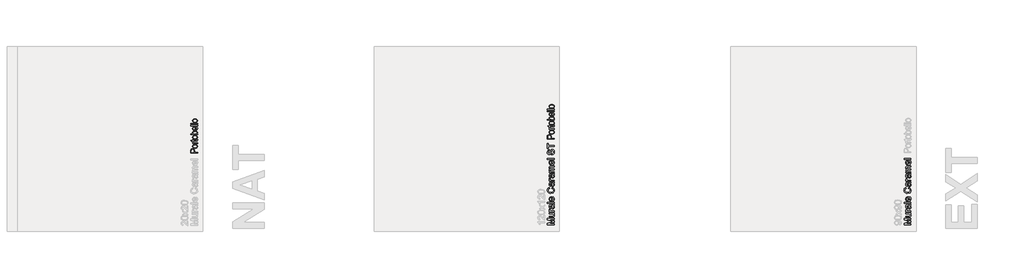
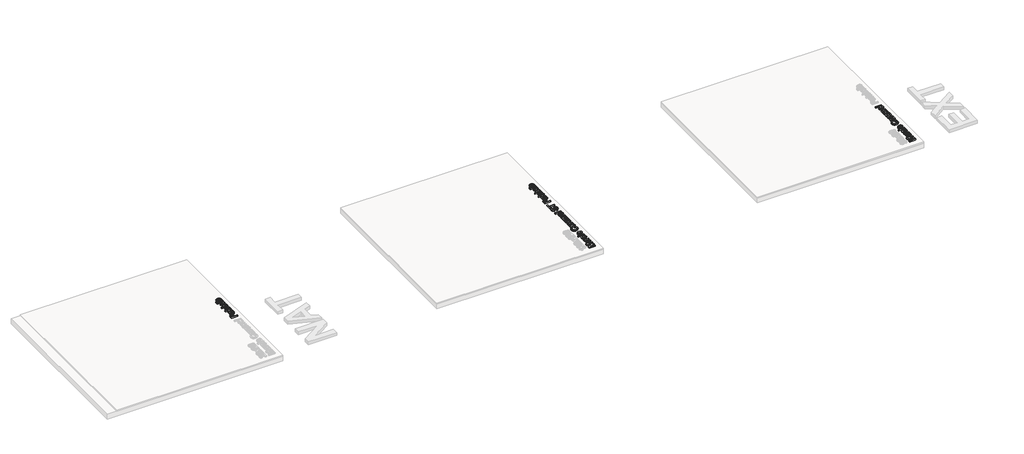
# One storey, part 19 of 21: 4 proxies.
"""IFC4 building model written with IfcOpenShell, lengths in millimetres."""

from ifc_helpers import new_model, si_unit, frame, origin, origin_with_axes, place, context, project, spatial, polyline, outline, extrude, element, save

model = new_model("IFC4")

# Units and contexts
model_context = context("Model", 3, world=origin())
ifc_project = project(units=[si_unit("LENGTHUNIT", "METRE", prefix="MILLI")], contexts=[model_context])

# Site, building, storey
site = spatial("IfcSite", under=ifc_project)
building = spatial("IfcBuilding", under=site)
storey = spatial("IfcBuildingStorey", under=building, Name="PORTOBELLO - SHOWROOM", Elevation=0.0)

# Proxies
placement = place(None, origin())
element("IfcBuildingElementProxy", 1, Name="10mm Arial", ObjectType="10mm Arial", at=placement, inside=storey, context=model_context, shape_type="SweptSolid", body=[
    extrude(outline(polyline([(28359.4625095, 34969.8696803), (28259.0061994, 34969.8696803), (28259.0061994, 34991.4030397), (28329.8112207, 35012.0044314), (28344.6000769, 35016.1737607), (28328.5849474, 35020.6619211), (28259.0061994, 35040.8709053), (28259.0061994, 35062.4778412), (28359.4625095, 35062.4778412), (28359.4625095, 35049.9208024), (28271.5632382, 35049.9208024), (28359.4625095, 35024.6840975), (28359.4625095, 35007.6879494), (28271.5632382, 34982.426719), (28359.4625095, 34982.426719), (28359.4625095, 34969.8696803)])), frame((0.0, 0.0, 18.0), z_axis=(0.0, 0.0, 1.0), x_axis=(1.0, 0.0, 0.0)), (0.0, 0.0, 1.0), 20.0),
    extrude(outline(polyline([(28359.4625095, 35129.9719246), (28346.7828434, 35129.9719246), (28357.4698154, 35120.1372126), (28361.0321394, 35107.3103937), (28358.5305418, 35095.5013816), (28352.2520224, 35087.3589268), (28343.0059216, 35083.6187932), (28331.3317996, 35082.8830292), (28285.6899068, 35082.8830292), (28285.6899068, 35095.4400679), (28325.4211622, 35095.4400679), (28338.2234557, 35096.2003574), (28345.7405111, 35101.1667643), (28348.4751006, 35110.5232297), (28345.6791974, 35121.0078666), (28338.0640401, 35127.9363109), (28324.0722616, 35129.9719246), (28285.6899068, 35129.9719246), (28285.6899068, 35142.5289633), (28359.4625095, 35142.5289633), (28359.4625095, 35129.9719246)])), frame((0.0, 0.0, 18.0), z_axis=(0.0, 0.0, 1.0), x_axis=(1.0, 0.0, 0.0)), (0.0, 0.0, 1.0), 20.0),
    extrude(outline(polyline([(28359.4625095, 35159.7948916), (28285.6899068, 35159.7948916), (28285.6899068, 35170.7823006), (28296.6037393, 35170.7823006), (28286.5482981, 35178.5813989), (28284.1202769, 35186.4295481), (28287.9953006, 35199.0356378), (28299.2524897, 35194.841783), (28296.6773157, 35186.0126152), (28299.1543878, 35178.9124927), (28306.0215184, 35174.3875441), (28320.6877472, 35172.3519304), (28359.4625095, 35172.3519304), (28359.4625095, 35159.7948916)])), frame((0.0, 0.0, 18.0), z_axis=(0.0, 0.0, 1.0), x_axis=(1.0, 0.0, 0.0)), (0.0, 0.0, 1.0), 20.0),
    extrude(outline(polyline([(28350.0447305, 35253.9726824), (28358.5550673, 35241.7957884), (28361.0321394, 35228.3435701), (28359.5422173, 35217.8497362), (28355.0724511, 35210.1088858), (28348.2850282, 35205.335617), (28339.8421365, 35203.7445273), (28329.9093226, 35206.148023), (28322.6988355, 35212.4633306), (28318.5785571, 35221.2557103), (28316.6900962, 35232.1204919), (28312.3736142, 35253.899106), (28309.577711, 35253.9726824), (28300.3070847, 35250.5145916), (28296.6773157, 35236.6331777), (28299.0930741, 35223.9289861), (28307.6647246, 35217.8711959), (28306.0950948, 35205.3141572), (28293.8323616, 35210.746548), (28286.6464, 35221.684906), (28284.1202769, 35238.2518585), (28286.3520944, 35253.4699103), (28291.9561634, 35262.0660863), (28300.478763, 35265.9165845), (28311.4661719, 35266.5297212), (28327.088894, 35266.5297212), (28348.9042963, 35267.1673833), (28359.4625095, 35269.6689809), (28359.4625095, 35257.1119421), (28350.0447305, 35253.9726824)]), holes=[polyline([(28324.9306529, 35253.9726824), (28328.7811511, 35233.7146472), (28330.8167648, 35222.9111793), (28334.1277028, 35218.0183487), (28338.9592197, 35216.3015661), (28345.7527738, 35220.0416997), (28348.4751006, 35231.0168459), (28345.470731, 35243.7210375), (28338.1989302, 35251.9125432), (28328.4868455, 35253.899106), (28324.9306529, 35253.9726824)])]), frame((0.0, 0.0, 18.0), z_axis=(0.0, 0.0, 1.0), x_axis=(1.0, 0.0, 0.0)), (0.0, 0.0, 1.0), 20.0),
    extrude(outline(polyline([(28359.4625095, 35283.7956495), (28259.0061994, 35283.7956495), (28259.0061994, 35296.3526882), (28359.4625095, 35296.3526882), (28359.4625095, 35283.7956495)])), frame((0.0, 0.0, 18.0), z_axis=(0.0, 0.0, 1.0), x_axis=(1.0, 0.0, 0.0)), (0.0, 0.0, 1.0), 20.0),
    extrude(outline(polyline([(28337.4876917, 35366.8388785), (28339.0573215, 35379.1506626), (28348.3340792, 35374.7146189), (28355.2686548, 35367.6359562), (28359.5912682, 35358.07409), (28361.0321394, 35346.1884359), (28358.5458702, 35331.454762), (28351.0870628, 35320.1178651), (28339.140095, 35312.8889839), (28323.1893448, 35310.4793569), (28306.7021001, 35312.9135094), (28294.3719219, 35320.215967), (28286.6831882, 35331.3995797), (28284.1202769, 35345.4771973), (28286.6770568, 35359.1164223), (28294.3473964, 35370.0149264), (28306.6530491, 35377.1610342), (28323.1157684, 35379.5430701), (28326.5002828, 35379.4694937), (28326.5002828, 35323.0363956), (28335.8996677, 35325.2099651), (28342.8097179, 35330.2591455), (28347.0587549, 35337.5462747), (28348.4751006, 35346.4336905), (28345.8508757, 35358.7454746), (28337.4876917, 35366.8388785)]), holes=[polyline([(28313.943244, 35323.0363956), (28313.943244, 35366.9860313), (28302.5634276, 35361.9583107), (28298.1488437, 35354.637459), (28296.6773157, 35345.4281464), (28301.3739425, 35329.9648399), (28306.8645813, 35325.0996005), (28313.943244, 35323.0363956)])]), frame((0.0, 0.0, 18.0), z_axis=(0.0, 0.0, 1.0), x_axis=(1.0, 0.0, 0.0)), (0.0, 0.0, 1.0), 20.0),
    extrude(outline(polyline([(28323.7534305, 35503.5438279), (28326.9907921, 35516.1008667), (28341.6232985, 35510.3067253), (28352.3133361, 35501.2139086), (28358.8524386, 35489.2700065), (28361.0321394, 35474.9226087), (28359.3828018, 35460.3575474), (28354.4347889, 35448.7907243), (28346.3597791, 35439.9247682), (28335.3294506, 35433.4623078), (28308.474065, 35428.2015953), (28293.8262302, 35429.6884517), (28281.177221, 35434.1490209), (28270.9286417, 35441.350311), (28263.482097, 35451.0593299), (28258.9479514, 35462.5740364), (28257.4365695, 35475.1923888), (28259.3924755, 35488.9603725), (28265.2601933, 35500.3432546), (28274.6779724, 35508.9854158), (28287.2840621, 35514.5312369), (28290.276169, 35501.9741981), (28274.8373879, 35491.6735022), (28269.9936083, 35474.7018795), (28275.3646854, 35455.056981), (28289.7856596, 35443.9592074), (28308.4495395, 35440.7586341), (28330.0810009, 35444.5478186), (28343.9011011, 35456.3445679), (28348.4751006, 35473.6718099), (28346.9177335, 35484.1533811), (28342.2456322, 35492.8875128), (28334.5078475, 35499.4817976), (28323.7534305, 35503.5438279)])), frame((0.0, 0.0, 18.0), z_axis=(0.0, 0.0, 1.0), x_axis=(1.0, 0.0, 0.0)), (0.0, 0.0, 1.0), 20.0),
    extrude(outline(polyline([(28350.0447305, 35578.8860605), (28358.5550673, 35566.7091665), (28361.0321394, 35553.2569482), (28359.5422173, 35542.7631143), (28355.0724511, 35535.022264), (28348.2850282, 35530.2489951), (28339.8421365, 35528.6579055), (28329.9093226, 35531.0614012), (28322.6988355, 35537.3767088), (28318.5785571, 35546.1690884), (28316.6900962, 35557.03387), (28312.3736142, 35578.8124841), (28309.577711, 35578.8860605), (28300.3070847, 35575.4279698), (28296.6773157, 35561.5465558), (28299.0930741, 35548.8423643), (28307.6647246, 35542.7845741), (28306.0950948, 35530.2275353), (28293.8323616, 35535.6599261), (28286.6464, 35546.5982841), (28284.1202769, 35563.1652366), (28286.3520944, 35578.3832885), (28291.9561634, 35586.9794644), (28300.478763, 35590.8299627), (28311.4661719, 35591.4430993), (28327.088894, 35591.4430993), (28348.9042963, 35592.0807614), (28359.4625095, 35594.582359), (28359.4625095, 35582.0253202), (28350.0447305, 35578.8860605)]), holes=[polyline([(28324.9306529, 35578.8860605), (28328.7811511, 35558.6280253), (28330.8167648, 35547.8245574), (28334.1277028, 35542.9317269), (28338.9592197, 35541.2149442), (28345.7527738, 35544.9550779), (28348.4751006, 35555.930224), (28345.470731, 35568.6344156), (28338.1989302, 35576.8259214), (28328.4868455, 35578.8124841), (28324.9306529, 35578.8860605)])]), frame((0.0, 0.0, 18.0), z_axis=(0.0, 0.0, 1.0), x_axis=(1.0, 0.0, 0.0)), (0.0, 0.0, 1.0), 20.0),
    extrude(outline(polyline([(28359.4625095, 35608.7090276), (28285.6899068, 35608.7090276), (28285.6899068, 35619.6964365), (28296.6037393, 35619.6964365), (28286.5482981, 35627.4955348), (28284.1202769, 35635.3436841), (28287.9953006, 35647.9497738), (28299.2524897, 35643.755919), (28296.6773157, 35634.9267511), (28299.1543878, 35627.8266286), (28306.0215184, 35623.3016801), (28320.6877472, 35621.2660664), (28359.4625095, 35621.2660664), (28359.4625095, 35608.7090276)])), frame((0.0, 0.0, 18.0), z_axis=(0.0, 0.0, 1.0), x_axis=(1.0, 0.0, 0.0)), (0.0, 0.0, 1.0), 20.0),
    extrude(outline(polyline([(28350.0447305, 35702.8868184), (28358.5550673, 35690.7099243), (28361.0321394, 35677.2577061), (28359.5422173, 35666.7638721), (28355.0724511, 35659.0230218), (28348.2850282, 35654.2497529), (28339.8421365, 35652.6586633), (28329.9093226, 35655.062159), (28322.6988355, 35661.3774666), (28318.5785571, 35670.1698463), (28316.6900962, 35681.0346279), (28312.3736142, 35702.813242), (28309.577711, 35702.8868184), (28300.3070847, 35699.4287276), (28296.6773157, 35685.5473137), (28299.0930741, 35672.8431221), (28307.6647246, 35666.7853319), (28306.0950948, 35654.2282932), (28293.8323616, 35659.6606839), (28286.6464, 35670.5990419), (28284.1202769, 35687.1659945), (28286.3520944, 35702.3840463), (28291.9561634, 35710.9802223), (28300.478763, 35714.8307205), (28311.4661719, 35715.4438571), (28327.088894, 35715.4438571), (28348.9042963, 35716.0815193), (28359.4625095, 35718.5831168), (28359.4625095, 35706.0260781), (28350.0447305, 35702.8868184)]), holes=[polyline([(28324.9306529, 35702.8868184), (28328.7811511, 35682.6287832), (28330.8167648, 35671.8253153), (28334.1277028, 35666.9324847), (28338.9592197, 35665.2157021), (28345.7527738, 35668.9558357), (28348.4751006, 35679.9309819), (28345.470731, 35692.6351734), (28338.1989302, 35700.8266792), (28328.4868455, 35702.813242), (28324.9306529, 35702.8868184)])]), frame((0.0, 0.0, 18.0), z_axis=(0.0, 0.0, 1.0), x_axis=(1.0, 0.0, 0.0)), (0.0, 0.0, 1.0), 20.0),
    extrude(outline(polyline([(28359.4625095, 35732.7097855), (28285.6899068, 35732.7097855), (28285.6899068, 35745.2668242), (28297.8300126, 35745.2668242), (28287.884936, 35753.8997884), (28284.1202769, 35766.187047), (28287.9585124, 35778.7686113), (28298.7129294, 35785.6847928), (28287.76844, 35795.4827166), (28284.1202769, 35807.8558143), (28285.6377902, 35817.2950532), (28290.1903298, 35824.2756141), (28297.9005233, 35828.5890304), (28308.8909979, 35830.0268359), (28359.4625095, 35830.0268359), (28359.4625095, 35817.4697971), (28314.2866005, 35817.4697971), (28303.8019637, 35816.3048375), (28298.639353, 35812.0864573), (28296.6773157, 35804.9127584), (28301.7050363, 35792.5641861), (28308.2472044, 35788.8761691), (28317.8182677, 35787.6468301), (28359.4625095, 35787.6468301), (28359.4625095, 35775.0897913), (28312.8886489, 35775.0897913), (28300.7240176, 35772.1835235), (28296.6773157, 35762.6553799), (28299.375117, 35753.3602281), (28307.2723172, 35747.1798106), (28322.2573771, 35745.2668242), (28359.4625095, 35745.2668242), (28359.4625095, 35732.7097855)])), frame((0.0, 0.0, 18.0), z_axis=(0.0, 0.0, 1.0), x_axis=(1.0, 0.0, 0.0)), (0.0, 0.0, 1.0), 20.0),
    extrude(outline(polyline([(28337.4876917, 35900.5130262), (28339.0573215, 35912.8248103), (28348.3340792, 35908.3887666), (28355.2686548, 35901.3101038), (28359.5912682, 35891.7482377), (28361.0321394, 35879.8625835), (28358.5458702, 35865.1289096), (28351.0870628, 35853.7920128), (28339.140095, 35846.5631316), (28323.1893448, 35844.1535045), (28306.7021001, 35846.5876571), (28294.3719219, 35853.8901147), (28286.6831882, 35865.0737273), (28284.1202769, 35879.151345), (28286.6770568, 35892.79057), (28294.3473964, 35903.6890741), (28306.6530491, 35910.8351818), (28323.1157684, 35913.2172178), (28326.5002828, 35913.1436414), (28326.5002828, 35856.7105433), (28335.8996677, 35858.8841128), (28342.8097179, 35863.9332931), (28347.0587549, 35871.2204223), (28348.4751006, 35880.1078382), (28345.8508757, 35892.4196223), (28337.4876917, 35900.5130262)]), holes=[polyline([(28313.943244, 35856.7105433), (28313.943244, 35900.660179), (28302.5634276, 35895.6324584), (28298.1488437, 35888.3116067), (28296.6773157, 35879.1022941), (28301.3739425, 35863.6389875), (28306.8645813, 35858.7737482), (28313.943244, 35856.7105433)])]), frame((0.0, 0.0, 18.0), z_axis=(0.0, 0.0, 1.0), x_axis=(1.0, 0.0, 0.0)), (0.0, 0.0, 1.0), 20.0),
    extrude(outline(polyline([(28359.4625095, 35925.7742565), (28259.0061994, 35925.7742565), (28259.0061994, 35938.3312953), (28359.4625095, 35938.3312953), (28359.4625095, 35925.7742565)])), frame((0.0, 0.0, 18.0), z_axis=(0.0, 0.0, 1.0), x_axis=(1.0, 0.0, 0.0)), (0.0, 0.0, 1.0), 20.0),
])
element("IfcBuildingElementProxy", 2, Name="10mm Arial", ObjectType="10mm Arial", at=placement, inside=storey, context=model_context, shape_type="SweptSolid", body=[
    extrude(outline(polyline([(23159.4374935, 34969.8696803), (23058.9811833, 34969.8696803), (23058.9811833, 34991.4030397), (23129.7862046, 35012.0044314), (23144.5750608, 35016.1737607), (23128.5599313, 35020.6619211), (23058.9811833, 35040.8709053), (23058.9811833, 35062.4778412), (23159.4374935, 35062.4778412), (23159.4374935, 35049.9208024), (23071.5382221, 35049.9208024), (23159.4374935, 35024.6840975), (23159.4374935, 35007.6879494), (23071.5382221, 34982.426719), (23159.4374935, 34982.426719), (23159.4374935, 34969.8696803)])), frame((0.0, 0.0, 17.0), z_axis=(0.0, 0.0, 1.0), x_axis=(1.0, 0.0, 0.0)), (0.0, 0.0, 1.0), 20.0),
    extrude(outline(polyline([(23159.4374935, 35129.9719246), (23146.7578274, 35129.9719246), (23157.4447993, 35120.1372126), (23161.0071233, 35107.3103937), (23158.5055257, 35095.5013816), (23152.2270063, 35087.3589268), (23142.9809055, 35083.6187932), (23131.3067836, 35082.8830292), (23085.6648907, 35082.8830292), (23085.6648907, 35095.4400679), (23125.3961462, 35095.4400679), (23138.1984396, 35096.2003574), (23145.715495, 35101.1667643), (23148.4500845, 35110.5232297), (23145.6541814, 35121.0078666), (23138.0390241, 35127.9363109), (23124.0472455, 35129.9719246), (23085.6648907, 35129.9719246), (23085.6648907, 35142.5289633), (23159.4374935, 35142.5289633), (23159.4374935, 35129.9719246)])), frame((0.0, 0.0, 17.0), z_axis=(0.0, 0.0, 1.0), x_axis=(1.0, 0.0, 0.0)), (0.0, 0.0, 1.0), 20.0),
    extrude(outline(polyline([(23159.4374935, 35159.7948916), (23085.6648907, 35159.7948916), (23085.6648907, 35170.7823006), (23096.5787232, 35170.7823006), (23086.523282, 35178.5813989), (23084.0952608, 35186.4295481), (23087.9702845, 35199.0356378), (23099.2274736, 35194.841783), (23096.6522996, 35186.0126152), (23099.1293717, 35178.9124927), (23105.9965023, 35174.3875441), (23120.6627312, 35172.3519304), (23159.4374935, 35172.3519304), (23159.4374935, 35159.7948916)])), frame((0.0, 0.0, 17.0), z_axis=(0.0, 0.0, 1.0), x_axis=(1.0, 0.0, 0.0)), (0.0, 0.0, 1.0), 20.0),
    extrude(outline(polyline([(23150.0197144, 35253.9726824), (23158.5300512, 35241.7957884), (23161.0071233, 35228.3435701), (23159.5172012, 35217.8497362), (23155.047435, 35210.1088858), (23148.2600122, 35205.335617), (23139.8171204, 35203.7445273), (23129.8843065, 35206.148023), (23122.6738194, 35212.4633306), (23118.5535411, 35221.2557103), (23116.6650801, 35232.1204919), (23112.3485981, 35253.899106), (23109.5526949, 35253.9726824), (23100.2820686, 35250.5145916), (23096.6522996, 35236.6331777), (23099.068058, 35223.9289861), (23107.6397085, 35217.8711959), (23106.0700787, 35205.3141572), (23093.8073455, 35210.746548), (23086.6213839, 35221.684906), (23084.0952608, 35238.2518585), (23086.3270783, 35253.4699103), (23091.9311473, 35262.0660863), (23100.4537469, 35265.9165845), (23111.4411558, 35266.5297212), (23127.0638779, 35266.5297212), (23148.8792802, 35267.1673833), (23159.4374935, 35269.6689809), (23159.4374935, 35257.1119421), (23150.0197144, 35253.9726824)]), holes=[polyline([(23124.9056368, 35253.9726824), (23128.7561351, 35233.7146472), (23130.7917488, 35222.9111793), (23134.1026867, 35218.0183487), (23138.9342036, 35216.3015661), (23145.7277578, 35220.0416997), (23148.4500845, 35231.0168459), (23145.4457149, 35243.7210375), (23138.1739141, 35251.9125432), (23128.4618295, 35253.899106), (23124.9056368, 35253.9726824)])]), frame((0.0, 0.0, 17.0), z_axis=(0.0, 0.0, 1.0), x_axis=(1.0, 0.0, 0.0)), (0.0, 0.0, 1.0), 20.0),
    extrude(outline(polyline([(23159.4374935, 35283.7956495), (23058.9811833, 35283.7956495), (23058.9811833, 35296.3526882), (23159.4374935, 35296.3526882), (23159.4374935, 35283.7956495)])), frame((0.0, 0.0, 17.0), z_axis=(0.0, 0.0, 1.0), x_axis=(1.0, 0.0, 0.0)), (0.0, 0.0, 1.0), 20.0),
    extrude(outline(polyline([(23137.4626756, 35366.8388785), (23139.0323055, 35379.1506626), (23148.3090631, 35374.7146189), (23155.2436387, 35367.6359562), (23159.5662521, 35358.07409), (23161.0071233, 35346.1884359), (23158.5208541, 35331.454762), (23151.0620467, 35320.1178651), (23139.1150789, 35312.8889839), (23123.1643287, 35310.4793569), (23106.677084, 35312.9135094), (23094.3469058, 35320.215967), (23086.6581721, 35331.3995797), (23084.0952608, 35345.4771973), (23086.6520407, 35359.1164223), (23094.3223803, 35370.0149264), (23106.628033, 35377.1610342), (23123.0907523, 35379.5430701), (23126.4752667, 35379.4694937), (23126.4752667, 35323.0363956), (23135.8746517, 35325.2099651), (23142.7847018, 35330.2591455), (23147.0337388, 35337.5462747), (23148.4500845, 35346.4336905), (23145.8258596, 35358.7454746), (23137.4626756, 35366.8388785)]), holes=[polyline([(23113.9182279, 35323.0363956), (23113.9182279, 35366.9860313), (23102.5384115, 35361.9583107), (23098.1238276, 35354.637459), (23096.6522996, 35345.4281464), (23101.3489264, 35329.9648399), (23106.8395652, 35325.0996005), (23113.9182279, 35323.0363956)])]), frame((0.0, 0.0, 17.0), z_axis=(0.0, 0.0, 1.0), x_axis=(1.0, 0.0, 0.0)), (0.0, 0.0, 1.0), 20.0),
    extrude(outline(polyline([(23123.7284145, 35503.5438279), (23126.965776, 35516.1008667), (23141.5982824, 35510.3067253), (23152.28832, 35501.2139086), (23158.8274225, 35489.2700065), (23161.0071233, 35474.9226087), (23159.3577857, 35460.3575474), (23154.4097729, 35448.7907243), (23146.3347631, 35439.9247682), (23135.3044346, 35433.4623078), (23108.4490489, 35428.2015953), (23093.8012141, 35429.6884517), (23081.1522049, 35434.1490209), (23070.9036256, 35441.350311), (23063.4570809, 35451.0593299), (23058.9229353, 35462.5740364), (23057.4115535, 35475.1923888), (23059.3674594, 35488.9603725), (23065.2351772, 35500.3432546), (23074.6529563, 35508.9854158), (23087.259046, 35514.5312369), (23090.2511529, 35501.9741981), (23074.8123718, 35491.6735022), (23069.9685922, 35474.7018795), (23075.3396694, 35455.056981), (23089.7606436, 35443.9592074), (23108.4245235, 35440.7586341), (23130.0559848, 35444.5478186), (23143.8760851, 35456.3445679), (23148.4500845, 35473.6718099), (23146.8927174, 35484.1533811), (23142.2206161, 35492.8875128), (23134.4828314, 35499.4817976), (23123.7284145, 35503.5438279)])), frame((0.0, 0.0, 17.0), z_axis=(0.0, 0.0, 1.0), x_axis=(1.0, 0.0, 0.0)), (0.0, 0.0, 1.0), 20.0),
    extrude(outline(polyline([(23150.0197144, 35578.8860605), (23158.5300512, 35566.7091665), (23161.0071233, 35553.2569482), (23159.5172012, 35542.7631143), (23155.047435, 35535.022264), (23148.2600122, 35530.2489951), (23139.8171204, 35528.6579055), (23129.8843065, 35531.0614012), (23122.6738194, 35537.3767088), (23118.5535411, 35546.1690884), (23116.6650801, 35557.03387), (23112.3485981, 35578.8124841), (23109.5526949, 35578.8860605), (23100.2820686, 35575.4279698), (23096.6522996, 35561.5465558), (23099.068058, 35548.8423643), (23107.6397085, 35542.7845741), (23106.0700787, 35530.2275353), (23093.8073455, 35535.6599261), (23086.6213839, 35546.5982841), (23084.0952608, 35563.1652366), (23086.3270783, 35578.3832885), (23091.9311473, 35586.9794644), (23100.4537469, 35590.8299627), (23111.4411558, 35591.4430993), (23127.0638779, 35591.4430993), (23148.8792802, 35592.0807614), (23159.4374935, 35594.582359), (23159.4374935, 35582.0253202), (23150.0197144, 35578.8860605)]), holes=[polyline([(23124.9056368, 35578.8860605), (23128.7561351, 35558.6280253), (23130.7917488, 35547.8245574), (23134.1026867, 35542.9317269), (23138.9342036, 35541.2149442), (23145.7277578, 35544.9550779), (23148.4500845, 35555.930224), (23145.4457149, 35568.6344156), (23138.1739141, 35576.8259214), (23128.4618295, 35578.8124841), (23124.9056368, 35578.8860605)])]), frame((0.0, 0.0, 17.0), z_axis=(0.0, 0.0, 1.0), x_axis=(1.0, 0.0, 0.0)), (0.0, 0.0, 1.0), 20.0),
    extrude(outline(polyline([(23159.4374935, 35608.7090276), (23085.6648907, 35608.7090276), (23085.6648907, 35619.6964365), (23096.5787232, 35619.6964365), (23086.523282, 35627.4955348), (23084.0952608, 35635.3436841), (23087.9702845, 35647.9497738), (23099.2274736, 35643.755919), (23096.6522996, 35634.9267511), (23099.1293717, 35627.8266286), (23105.9965023, 35623.3016801), (23120.6627312, 35621.2660664), (23159.4374935, 35621.2660664), (23159.4374935, 35608.7090276)])), frame((0.0, 0.0, 17.0), z_axis=(0.0, 0.0, 1.0), x_axis=(1.0, 0.0, 0.0)), (0.0, 0.0, 1.0), 20.0),
    extrude(outline(polyline([(23150.0197144, 35702.8868184), (23158.5300512, 35690.7099243), (23161.0071233, 35677.2577061), (23159.5172012, 35666.7638721), (23155.047435, 35659.0230218), (23148.2600122, 35654.2497529), (23139.8171204, 35652.6586633), (23129.8843065, 35655.062159), (23122.6738194, 35661.3774666), (23118.5535411, 35670.1698463), (23116.6650801, 35681.0346279), (23112.3485981, 35702.813242), (23109.5526949, 35702.8868184), (23100.2820686, 35699.4287276), (23096.6522996, 35685.5473137), (23099.068058, 35672.8431221), (23107.6397085, 35666.7853319), (23106.0700787, 35654.2282932), (23093.8073455, 35659.6606839), (23086.6213839, 35670.5990419), (23084.0952608, 35687.1659945), (23086.3270783, 35702.3840463), (23091.9311473, 35710.9802223), (23100.4537469, 35714.8307205), (23111.4411558, 35715.4438571), (23127.0638779, 35715.4438571), (23148.8792802, 35716.0815193), (23159.4374935, 35718.5831168), (23159.4374935, 35706.0260781), (23150.0197144, 35702.8868184)]), holes=[polyline([(23124.9056368, 35702.8868184), (23128.7561351, 35682.6287832), (23130.7917488, 35671.8253153), (23134.1026867, 35666.9324847), (23138.9342036, 35665.2157021), (23145.7277578, 35668.9558357), (23148.4500845, 35679.9309819), (23145.4457149, 35692.6351734), (23138.1739141, 35700.8266792), (23128.4618295, 35702.813242), (23124.9056368, 35702.8868184)])]), frame((0.0, 0.0, 17.0), z_axis=(0.0, 0.0, 1.0), x_axis=(1.0, 0.0, 0.0)), (0.0, 0.0, 1.0), 20.0),
    extrude(outline(polyline([(23159.4374935, 35732.7097855), (23085.6648907, 35732.7097855), (23085.6648907, 35745.2668242), (23097.8049965, 35745.2668242), (23087.8599199, 35753.8997884), (23084.0952608, 35766.187047), (23087.9334963, 35778.7686113), (23098.6879133, 35785.6847928), (23087.743424, 35795.4827166), (23084.0952608, 35807.8558143), (23085.6127741, 35817.2950532), (23090.1653138, 35824.2756141), (23097.8755072, 35828.5890304), (23108.8659818, 35830.0268359), (23159.4374935, 35830.0268359), (23159.4374935, 35817.4697971), (23114.2615844, 35817.4697971), (23103.7769476, 35816.3048375), (23098.6143369, 35812.0864573), (23096.6522996, 35804.9127584), (23101.6800202, 35792.5641861), (23108.2221884, 35788.8761691), (23117.7932516, 35787.6468301), (23159.4374935, 35787.6468301), (23159.4374935, 35775.0897913), (23112.8636329, 35775.0897913), (23100.6990016, 35772.1835235), (23096.6522996, 35762.6553799), (23099.3501009, 35753.3602281), (23107.2473011, 35747.1798106), (23122.232361, 35745.2668242), (23159.4374935, 35745.2668242), (23159.4374935, 35732.7097855)])), frame((0.0, 0.0, 17.0), z_axis=(0.0, 0.0, 1.0), x_axis=(1.0, 0.0, 0.0)), (0.0, 0.0, 1.0), 20.0),
    extrude(outline(polyline([(23137.4626756, 35900.5130262), (23139.0323055, 35912.8248103), (23148.3090631, 35908.3887666), (23155.2436387, 35901.3101038), (23159.5662521, 35891.7482377), (23161.0071233, 35879.8625835), (23158.5208541, 35865.1289096), (23151.0620467, 35853.7920128), (23139.1150789, 35846.5631316), (23123.1643287, 35844.1535045), (23106.677084, 35846.5876571), (23094.3469058, 35853.8901147), (23086.6581721, 35865.0737273), (23084.0952608, 35879.151345), (23086.6520407, 35892.79057), (23094.3223803, 35903.6890741), (23106.628033, 35910.8351818), (23123.0907523, 35913.2172178), (23126.4752667, 35913.1436414), (23126.4752667, 35856.7105433), (23135.8746517, 35858.8841128), (23142.7847018, 35863.9332931), (23147.0337388, 35871.2204223), (23148.4500845, 35880.1078382), (23145.8258596, 35892.4196223), (23137.4626756, 35900.5130262)]), holes=[polyline([(23113.9182279, 35856.7105433), (23113.9182279, 35900.660179), (23102.5384115, 35895.6324584), (23098.1238276, 35888.3116067), (23096.6522996, 35879.1022941), (23101.3489264, 35863.6389875), (23106.8395652, 35858.7737482), (23113.9182279, 35856.7105433)])]), frame((0.0, 0.0, 17.0), z_axis=(0.0, 0.0, 1.0), x_axis=(1.0, 0.0, 0.0)), (0.0, 0.0, 1.0), 20.0),
    extrude(outline(polyline([(23159.4374935, 35925.7742565), (23058.9811833, 35925.7742565), (23058.9811833, 35938.3312953), (23159.4374935, 35938.3312953), (23159.4374935, 35925.7742565)])), frame((0.0, 0.0, 17.0), z_axis=(0.0, 0.0, 1.0), x_axis=(1.0, 0.0, 0.0)), (0.0, 0.0, 1.0), 20.0),
    extrude(outline(polyline([(23124.9056368, 35993.2683399), (23124.9056368, 36005.8253787), (23137.4749383, 36009.8720806), (23145.4211894, 36019.7558436), (23148.4500845, 36034.8144799), (23146.1569534, 36047.9356044), (23139.8539086, 36056.409153), (23131.4294109, 36059.1927934), (23123.5935244, 36057.1081288), (23117.8913535, 36048.5732665), (23113.0966248, 36030.2895314), (23106.9039445, 36010.6078446), (23097.5597419, 35999.927004), (23085.0762795, 35996.4075996), (23070.8637717, 36000.7608699), (23060.832856, 36013.4773242), (23057.4115535, 36032.0921531), (23060.9922715, 36051.9577809), (23071.5136966, 36065.2015327), (23087.2345205, 36070.1802024), (23087.2345205, 36057.6231636), (23079.7419906, 36055.3177698), (23074.3341252, 36050.5107784), (23069.9685922, 36032.5826625), (23074.2850743, 36014.6054956), (23084.7083975, 36008.9646384), (23093.414938, 36012.9622894), (23100.4292214, 36033.4655792), (23106.7322663, 36055.6856518), (23116.9103348, 36067.8380203), (23131.1105798, 36071.7498322), (23146.132428, 36067.2494091), (23157.0953114, 36054.2999629), (23161.0071233, 36035.3049892), (23156.7887431, 36012.8764503), (23144.0845515, 35998.688468), (23124.9056368, 35993.2683399)])), frame((0.0, 0.0, 17.0), z_axis=(0.0, 0.0, 1.0), x_axis=(1.0, 0.0, 0.0)), (0.0, 0.0, 1.0), 20.0),
    extrude(outline(polyline([(23159.4374935, 36115.6994679), (23071.5382221, 36115.6994679), (23071.5382221, 36082.7372411), (23058.9811833, 36082.7372411), (23058.9811833, 36161.2187334), (23071.5382221, 36161.2187334), (23071.5382221, 36128.2565067), (23159.4374935, 36128.2565067), (23159.4374935, 36115.6994679)])), frame((0.0, 0.0, 17.0), z_axis=(0.0, 0.0, 1.0), x_axis=(1.0, 0.0, 0.0)), (0.0, 0.0, 1.0), 20.0),
])
element("IfcBuildingElementProxy", 3, Name="10mm Arial Narrow", ObjectType="10mm Arial Narrow", at=placement, inside=storey, context=model_context, shape_type="SweptSolid", body=[
    extrude(outline(polyline([(17958.3969349, 36016.2021152), (17857.6783311, 36016.2021152), (17857.6783311, 36047.4989999), (17859.5566519, 36063.7947014), (17869.037095, 36075.2676875), (17886.0562039, 36079.5573659), (17898.1320294, 36077.7710575), (17907.7584232, 36072.4121323), (17914.0596816, 36062.6683435), (17916.160101, 36047.7274443), (17916.160101, 36025.9490768), (17958.3969349, 36025.9490768), (17958.3969349, 36016.2021152)]), holes=[polyline([(17904.7886458, 36025.9490768), (17904.7886458, 36048.9204318), (17900.2578316, 36064.7846272), (17886.5892408, 36069.8104043), (17876.4234644, 36067.3355898), (17870.6235146, 36061.357961), (17869.0497864, 36048.6919874), (17869.0497864, 36025.9490768), (17904.7886458, 36025.9490768)])]), origin_with_axes(), (0.0, 0.0, 1.0), 20.0),
    extrude(outline(polyline([(17921.8458287, 36087.679834), (17905.2550531, 36089.6343028), (17893.3029683, 36095.4977095), (17886.0784137, 36104.3562762), (17883.6702289, 36115.2962253), (17886.0784137, 36126.1092609), (17893.3029683, 36134.9932103), (17905.0646828, 36140.9327651), (17921.0843473, 36142.9126167), (17938.2462339, 36140.9676663), (17950.388689, 36135.1328153), (17957.6132436, 36126.2837671), (17960.0214285, 36115.2962253), (17957.6068979, 36104.4355972), (17950.3633063, 36095.5611663), (17938.4048758, 36089.650167), (17921.8458287, 36087.679834)]), holes=[polyline([(17921.820446, 36097.4267956), (17934.3721974, 36098.7308325), (17943.2434554, 36102.6429431), (17948.516714, 36108.4841398), (17950.2744668, 36115.5754352), (17948.5008498, 36122.2955083), (17943.1799987, 36127.9875816), (17934.2928764, 36131.8711367), (17921.820446, 36133.165655), (17909.3067686, 36131.8616182), (17900.4482019, 36127.9495076), (17895.1749434, 36122.1083108), (17893.4171905, 36115.0170155), (17895.1844619, 36108.2493497), (17900.486276, 36102.5667949), (17909.3543612, 36098.7117955), (17921.820446, 36097.4267956)])]), origin_with_axes(), (0.0, 0.0, 1.0), 20.0),
    extrude(outline(polyline([(17950.2744668, 36214.3903355), (17960.0214285, 36216.0148291), (17960.0214285, 36208.6538424), (17957.901972, 36200.3790781), (17952.1020221, 36196.0640169), (17937.456197, 36194.8964122), (17895.0416841, 36194.8964122), (17895.0416841, 36186.7739441), (17891.7926969, 36186.7739441), (17896.6661777, 36185.1494505), (17895.0416841, 36177.5854021), (17897.3642023, 36171.5062425), (17903.8494854, 36167.6353788), (17919.256792, 36165.6555272), (17958.3969349, 36165.6555272), (17958.3969349, 36155.9085656), (17885.2947225, 36155.9085656), (17885.2947225, 36165.6555272), (17894.9909187, 36165.6555272), (17885.9039076, 36171.8996745), (17883.6702289, 36178.2961181), (17885.2947225, 36186.7739441), (17885.2947225, 36194.8964122), (17869.0497864, 36194.8964122), (17860.9273183, 36204.6433738), (17885.2947225, 36204.6433738), (17885.2947225, 36214.3903355), (17895.0416841, 36214.3903355), (17895.0416841, 36204.6433738), (17939.6898757, 36204.6433738), (17947.6854301, 36205.506386), (17950.2744668, 36210.1260397), (17950.2744668, 36214.3903355)])), origin_with_axes(), (0.0, 0.0, 1.0), 20.0),
    extrude(outline(polyline([(17921.8458287, 36220.8883099), (17905.2550531, 36222.8427788), (17893.3029683, 36228.7061854), (17886.0784137, 36237.5647521), (17883.6702289, 36248.5047013), (17886.0784137, 36259.3177368), (17893.3029683, 36268.2016863), (17905.0646828, 36274.141241), (17921.0843473, 36276.1210926), (17938.2462339, 36274.1761423), (17950.388689, 36268.3412912), (17957.6132436, 36259.492243), (17960.0214285, 36248.5047013), (17957.6068979, 36237.6440731), (17950.3633063, 36228.7696422), (17938.4048758, 36222.858643), (17921.8458287, 36220.8883099)]), holes=[polyline([(17921.820446, 36230.6352716), (17934.3721974, 36231.9393084), (17943.2434554, 36235.851419), (17948.516714, 36241.6926158), (17950.2744668, 36248.7839111), (17948.5008498, 36255.5039843), (17943.1799987, 36261.1960576), (17934.2928764, 36265.0796126), (17921.820446, 36266.374131), (17909.3067686, 36265.0700941), (17900.4482019, 36261.1579835), (17895.1749434, 36255.3167868), (17893.4171905, 36248.2254914), (17895.1844619, 36241.4578257), (17900.486276, 36235.7752709), (17909.3543612, 36231.9202714), (17921.820446, 36230.6352716)])]), origin_with_axes(), (0.0, 0.0, 1.0), 20.0),
    extrude(outline(polyline([(17958.3969349, 36298.8640031), (17958.3969349, 36289.1170415), (17857.6783311, 36289.1170415), (17857.6783311, 36298.8640031), (17893.0872153, 36298.8640031), (17886.0054384, 36306.2630639), (17883.6702289, 36315.4642972), (17887.8710678, 36328.3460239), (17900.6004982, 36337.6234053), (17921.287409, 36341.100837), (17937.7417525, 36339.168578), (17949.9444916, 36333.371801), (17957.5021943, 36324.9986786), (17960.0214285, 36315.3373836), (17957.4070091, 36305.9965454), (17949.639899, 36298.8640031), (17958.3969349, 36298.8640031)]), holes=[polyline([(17921.287409, 36298.8640031), (17938.5349622, 36300.9453856), (17947.2666154, 36306.8341749), (17950.2744668, 36315.2866182), (17948.4849856, 36321.2293458), (17943.1165419, 36326.4677031), (17921.6935324, 36331.3538753), (17900.2578316, 36326.6453821), (17895.1273508, 36321.4006791), (17893.4171905, 36315.0835565), (17895.2066718, 36309.1059277), (17900.5751155, 36303.8136321), (17921.287409, 36298.8640031)])]), origin_with_axes(), (0.0, 0.0, 1.0), 20.0),
    extrude(outline(polyline([(17935.6540244, 36393.0846325), (17937.278518, 36402.8315941), (17947.1650845, 36399.1320637), (17954.2849354, 36393.3130769), (17958.5873052, 36385.6094236), (17960.0214285, 36376.255894), (17957.6068979, 36364.66234), (17950.3633063, 36355.5182177), (17938.5571721, 36349.578663), (17922.4550138, 36347.5988114), (17905.7880901, 36349.5881815), (17893.6075609, 36355.5562918), (17886.1545619, 36364.5703276), (17883.6702289, 36375.6974743), (17886.0688952, 36386.3804235), (17893.2648942, 36395.1279408), (17905.0043988, 36400.9627919), (17921.0335819, 36402.9077422), (17924.2825691, 36402.8315941), (17924.2825691, 36357.3457731), (17943.725727, 36363.3487846), (17948.6372819, 36369.2788208), (17950.2744668, 36376.3828075), (17946.6193562, 36386.5612753), (17935.6540244, 36393.0846325)]), holes=[polyline([(17914.5356074, 36358.0057236), (17914.5356074, 36393.0846325), (17900.2705229, 36388.8203367), (17895.1305236, 36382.9950042), (17893.4171905, 36375.7736224), (17899.1283009, 36363.5645377), (17914.5356074, 36358.0057236)])]), origin_with_axes(), (0.0, 0.0, 1.0), 20.0),
    extrude(outline(polyline([(17958.3969349, 36415.827543), (17857.6783311, 36415.827543), (17857.6783311, 36425.5745046), (17958.3969349, 36425.5745046), (17958.3969349, 36415.827543)])), origin_with_axes(), (0.0, 0.0, 1.0), 20.0),
    extrude(outline(polyline([(17958.3969349, 36441.8194407), (17857.6783311, 36441.8194407), (17857.6783311, 36451.5664024), (17958.3969349, 36451.5664024), (17958.3969349, 36441.8194407)])), origin_with_axes(), (0.0, 0.0, 1.0), 20.0),
    extrude(outline(polyline([(17921.8458287, 36462.9378576), (17905.2550531, 36464.8923265), (17893.3029683, 36470.7557331), (17886.0784137, 36479.6142998), (17883.6702289, 36490.554249), (17886.0784137, 36501.3672846), (17893.3029683, 36510.251234), (17905.0646828, 36516.1907888), (17921.0843473, 36518.1706403), (17938.2462339, 36516.22569), (17950.388689, 36510.3908389), (17957.6132436, 36501.5417907), (17960.0214285, 36490.554249), (17957.6068979, 36479.6936208), (17950.3633063, 36470.8191899), (17938.4048758, 36464.9081907), (17921.8458287, 36462.9378576)]), holes=[polyline([(17921.820446, 36472.6848193), (17934.3721974, 36473.9888562), (17943.2434554, 36477.9009667), (17948.516714, 36483.7421635), (17950.2744668, 36490.8334588), (17948.5008498, 36497.553532), (17943.1799987, 36503.2456053), (17934.2928764, 36507.1291603), (17921.820446, 36508.4236787), (17909.3067686, 36507.1196418), (17900.4482019, 36503.2075312), (17895.1749434, 36497.3663345), (17893.4171905, 36490.2750391), (17895.1844619, 36483.5073734), (17900.486276, 36477.8248186), (17909.3543612, 36473.9698191), (17921.820446, 36472.6848193)])]), origin_with_axes(), (0.0, 0.0, 1.0), 20.0),
])
element("IfcBuildingElementProxy", 4, Name="10mm Arial Narrow", ObjectType="10mm Arial Narrow", at=placement, inside=storey, context=model_context, shape_type="SweptSolid", body=[
    extrude(outline(polyline([(23159.4374935, 36224.588476), (23058.7188897, 36224.588476), (23058.7188897, 36255.8853607), (23060.5972104, 36272.1810622), (23070.0776536, 36283.6540483), (23087.0967624, 36287.9437267), (23099.172588, 36286.1574183), (23108.7989817, 36280.7984931), (23115.1002401, 36271.0547043), (23117.2006596, 36256.1138051), (23117.2006596, 36234.3354376), (23159.4374935, 36234.3354376), (23159.4374935, 36224.588476)]), holes=[polyline([(23105.8292044, 36234.3354376), (23105.8292044, 36257.3067926), (23101.2983902, 36273.170988), (23087.6297994, 36278.1967651), (23077.464023, 36275.7219506), (23071.6640731, 36269.7443218), (23070.090345, 36257.0783482), (23070.090345, 36234.3354376), (23105.8292044, 36234.3354376)])]), frame((0.0, 0.0, 17.0), z_axis=(0.0, 0.0, 1.0), x_axis=(1.0, 0.0, 0.0)), (0.0, 0.0, 1.0), 20.0),
    extrude(outline(polyline([(23122.8863873, 36296.0661948), (23106.2956117, 36298.0206637), (23094.3435269, 36303.8840703), (23087.1189723, 36312.742637), (23084.7107874, 36323.6825861), (23087.1189723, 36334.4956217), (23094.3435269, 36343.3795711), (23106.1052414, 36349.3191259), (23122.1249059, 36351.2989775), (23139.2867925, 36349.3540271), (23151.4292476, 36343.5191761), (23158.6538022, 36334.6701279), (23161.0619871, 36323.6825861), (23158.6474565, 36312.821958), (23151.4038649, 36303.9475271), (23139.4454344, 36298.0365278), (23122.8863873, 36296.0661948)]), holes=[polyline([(23122.8610045, 36305.8131564), (23135.4127559, 36307.1171933), (23144.284014, 36311.0293039), (23149.5572726, 36316.8705006), (23151.3150254, 36323.961796), (23149.5414084, 36330.6818691), (23144.2205572, 36336.3739424), (23135.333435, 36340.2574975), (23122.8610045, 36341.5520158), (23110.3473272, 36340.247979), (23101.4887605, 36336.3358684), (23096.2155019, 36330.4946716), (23094.4577491, 36323.4033763), (23096.2250205, 36316.6357105), (23101.5268346, 36310.9531557), (23110.3949198, 36307.0981563), (23122.8610045, 36305.8131564)])]), frame((0.0, 0.0, 17.0), z_axis=(0.0, 0.0, 1.0), x_axis=(1.0, 0.0, 0.0)), (0.0, 0.0, 1.0), 20.0),
    extrude(outline(polyline([(23151.3150254, 36422.7766963), (23161.0619871, 36424.4011899), (23161.0619871, 36417.0402032), (23158.9425306, 36408.7654389), (23153.1425807, 36404.4503777), (23138.4967555, 36403.282773), (23096.0822427, 36403.282773), (23096.0822427, 36395.1603049), (23092.8332555, 36395.1603049), (23097.7067363, 36393.5358113), (23096.0822427, 36385.9717629), (23098.4047609, 36379.8926033), (23104.890044, 36376.0217396), (23120.2973506, 36374.041888), (23159.4374935, 36374.041888), (23159.4374935, 36364.2949264), (23086.335281, 36364.2949264), (23086.335281, 36374.041888), (23096.0314773, 36374.041888), (23086.9444662, 36380.2860353), (23084.7107874, 36386.6824789), (23086.335281, 36395.1603049), (23086.335281, 36403.282773), (23070.090345, 36403.282773), (23061.9678769, 36413.0297346), (23086.335281, 36413.0297346), (23086.335281, 36422.7766963), (23096.0822427, 36422.7766963), (23096.0822427, 36413.0297346), (23140.7304342, 36413.0297346), (23148.7259887, 36413.8927468), (23151.3150254, 36418.5124006), (23151.3150254, 36422.7766963)])), frame((0.0, 0.0, 17.0), z_axis=(0.0, 0.0, 1.0), x_axis=(1.0, 0.0, 0.0)), (0.0, 0.0, 1.0), 20.0),
    extrude(outline(polyline([(23122.8863873, 36429.2746707), (23106.2956117, 36431.2291396), (23094.3435269, 36437.0925462), (23087.1189723, 36445.9511129), (23084.7107874, 36456.8910621), (23087.1189723, 36467.7040976), (23094.3435269, 36476.5880471), (23106.1052414, 36482.5276018), (23122.1249059, 36484.5074534), (23139.2867925, 36482.5625031), (23151.4292476, 36476.727652), (23158.6538022, 36467.8786038), (23161.0619871, 36456.8910621), (23158.6474565, 36446.0304339), (23151.4038649, 36437.156003), (23139.4454344, 36431.2450038), (23122.8863873, 36429.2746707)]), holes=[polyline([(23122.8610045, 36439.0216324), (23135.4127559, 36440.3256692), (23144.284014, 36444.2377798), (23149.5572726, 36450.0789766), (23151.3150254, 36457.1702719), (23149.5414084, 36463.8903451), (23144.2205572, 36469.5824184), (23135.333435, 36473.4659734), (23122.8610045, 36474.7604918), (23110.3473272, 36473.4564549), (23101.4887605, 36469.5443443), (23096.2155019, 36463.7031476), (23094.4577491, 36456.6118522), (23096.2250205, 36449.8441865), (23101.5268346, 36444.1616317), (23110.3949198, 36440.3066322), (23122.8610045, 36439.0216324)])]), frame((0.0, 0.0, 17.0), z_axis=(0.0, 0.0, 1.0), x_axis=(1.0, 0.0, 0.0)), (0.0, 0.0, 1.0), 20.0),
    extrude(outline(polyline([(23159.4374935, 36507.2503639), (23159.4374935, 36497.5034023), (23058.7188897, 36497.5034023), (23058.7188897, 36507.2503639), (23094.1277738, 36507.2503639), (23087.045997, 36514.6494247), (23084.7107874, 36523.850658), (23088.9116264, 36536.7323847), (23101.6410568, 36546.0097661), (23122.3279676, 36549.4871978), (23138.782311, 36547.5549388), (23150.9850501, 36541.7581618), (23158.5427528, 36533.3850394), (23161.0619871, 36523.7237444), (23158.4475677, 36514.3829062), (23150.6804576, 36507.2503639), (23159.4374935, 36507.2503639)]), holes=[polyline([(23122.3279676, 36507.2503639), (23139.5755208, 36509.3317464), (23148.307174, 36515.2205357), (23151.3150254, 36523.672979), (23149.5255442, 36529.6157066), (23144.1571004, 36534.8540639), (23122.734091, 36539.7402361), (23101.2983902, 36535.0317429), (23096.1679094, 36529.7870399), (23094.4577491, 36523.4699173), (23096.2472303, 36517.4922885), (23101.6156741, 36512.1999929), (23122.3279676, 36507.2503639)])]), frame((0.0, 0.0, 17.0), z_axis=(0.0, 0.0, 1.0), x_axis=(1.0, 0.0, 0.0)), (0.0, 0.0, 1.0), 20.0),
    extrude(outline(polyline([(23136.6945829, 36601.4709933), (23138.3190765, 36611.2179549), (23148.2056431, 36607.5184245), (23155.325494, 36601.6994377), (23159.6278638, 36593.9957844), (23161.0619871, 36584.6422548), (23158.6474565, 36573.0487008), (23151.4038649, 36563.9045785), (23139.5977307, 36557.9650238), (23123.4955724, 36555.9851722), (23106.8286487, 36557.9745423), (23094.6481194, 36563.9426526), (23087.1951204, 36572.9566884), (23084.7107874, 36584.0838351), (23087.1094538, 36594.7667843), (23094.3054528, 36603.5143016), (23106.0449574, 36609.3491527), (23122.0741404, 36611.294103), (23125.3231277, 36611.2179549), (23125.3231277, 36565.7321339), (23144.7662855, 36571.7351454), (23149.6778404, 36577.6651816), (23151.3150254, 36584.7691683), (23147.6599148, 36594.9476361), (23136.6945829, 36601.4709933)]), holes=[polyline([(23115.576166, 36566.3920844), (23115.576166, 36601.4709933), (23101.3110815, 36597.2066975), (23096.1710822, 36591.381365), (23094.4577491, 36584.1599832), (23100.1688594, 36571.9508985), (23115.576166, 36566.3920844)])]), frame((0.0, 0.0, 17.0), z_axis=(0.0, 0.0, 1.0), x_axis=(1.0, 0.0, 0.0)), (0.0, 0.0, 1.0), 20.0),
    extrude(outline(polyline([(23159.4374935, 36624.2139038), (23058.7188897, 36624.2139038), (23058.7188897, 36633.9608654), (23159.4374935, 36633.9608654), (23159.4374935, 36624.2139038)])), frame((0.0, 0.0, 17.0), z_axis=(0.0, 0.0, 1.0), x_axis=(1.0, 0.0, 0.0)), (0.0, 0.0, 1.0), 20.0),
    extrude(outline(polyline([(23159.4374935, 36650.2058015), (23058.7188897, 36650.2058015), (23058.7188897, 36659.9527632), (23159.4374935, 36659.9527632), (23159.4374935, 36650.2058015)])), frame((0.0, 0.0, 17.0), z_axis=(0.0, 0.0, 1.0), x_axis=(1.0, 0.0, 0.0)), (0.0, 0.0, 1.0), 20.0),
    extrude(outline(polyline([(23122.8863873, 36671.3242184), (23106.2956117, 36673.2786873), (23094.3435269, 36679.1420939), (23087.1189723, 36688.0006606), (23084.7107874, 36698.9406098), (23087.1189723, 36709.7536454), (23094.3435269, 36718.6375948), (23106.1052414, 36724.5771496), (23122.1249059, 36726.5570011), (23139.2867925, 36724.6120508), (23151.4292476, 36718.7771997), (23158.6538022, 36709.9281515), (23161.0619871, 36698.9406098), (23158.6474565, 36688.0799816), (23151.4038649, 36679.2055507), (23139.4454344, 36673.2945515), (23122.8863873, 36671.3242184)]), holes=[polyline([(23122.8610045, 36681.0711801), (23135.4127559, 36682.375217), (23144.284014, 36686.2873275), (23149.5572726, 36692.1285243), (23151.3150254, 36699.2198196), (23149.5414084, 36705.9398928), (23144.2205572, 36711.6319661), (23135.333435, 36715.5155211), (23122.8610045, 36716.8100395), (23110.3473272, 36715.5060026), (23101.4887605, 36711.593892), (23096.2155019, 36705.7526953), (23094.4577491, 36698.6614), (23096.2250205, 36691.8937342), (23101.5268346, 36686.2111794), (23110.3949198, 36682.3561799), (23122.8610045, 36681.0711801)])]), frame((0.0, 0.0, 17.0), z_axis=(0.0, 0.0, 1.0), x_axis=(1.0, 0.0, 0.0)), (0.0, 0.0, 1.0), 20.0),
])

save(model, "model.ifc")
